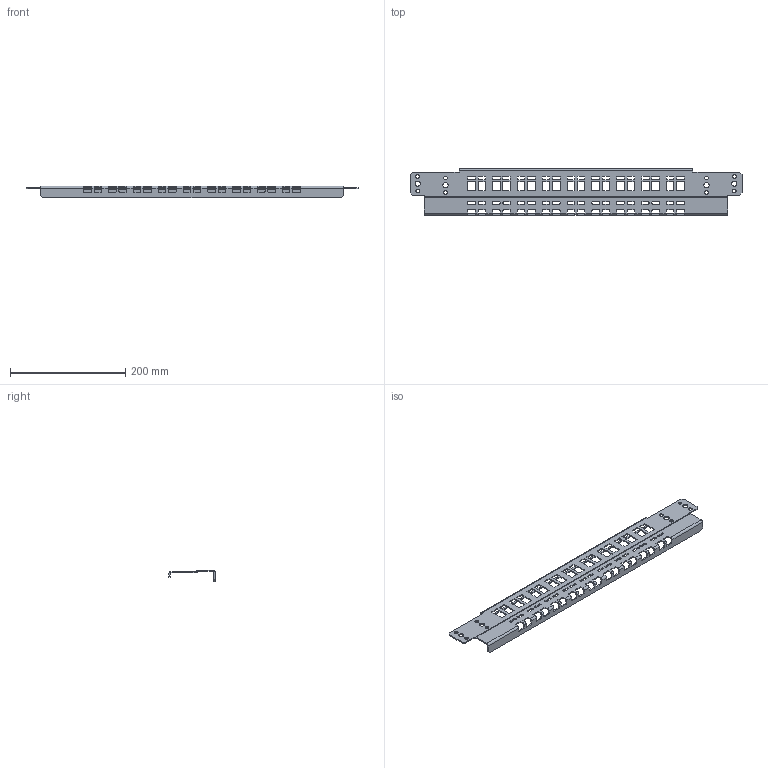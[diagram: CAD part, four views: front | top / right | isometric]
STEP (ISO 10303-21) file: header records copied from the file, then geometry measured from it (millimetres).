
FILE_DESCRIPTION (( 'STEP AP203' ), '1' );
FILE_NAME ('MG 60 EMC Ðåéêà êàáåëüíàÿ ñ êîíòàêòîì ÝÌÑ.STEP', '2012-11-26T12:15:14', ( 'system' ), ( '' ), 'SwSTEP 2.0', 'SolidWorks 2012', '' );
FILE_SCHEMA (( 'CONFIG_CONTROL_DESIGN' ));
Length unit declared in the file: millimetre
Products named in the file (1): MG 60 EMC Ðåéêà êàáåëüíàÿ ñ êîíòàêòîì ÝÌÑ
Bounding box: 575 x 80 x 20 mm (x, y, z)
Volume: 90424.4 mm3; surface area: 100252.6 mm2
Topology: 1 solids, 1 shells, 750 faces, 2200 edges, 1416 vertices
Faces by surface type: plane 394, cylinder 356
Entity records: 25293 total; most frequent: DIRECTION 4414, ORIENTED_EDGE 4400, CARTESIAN_POINT 4367, EDGE_CURVE 2200, LINE 1488, VECTOR 1488, AXIS2_PLACEMENT_3D 1463, VERTEX_POINT 1416
